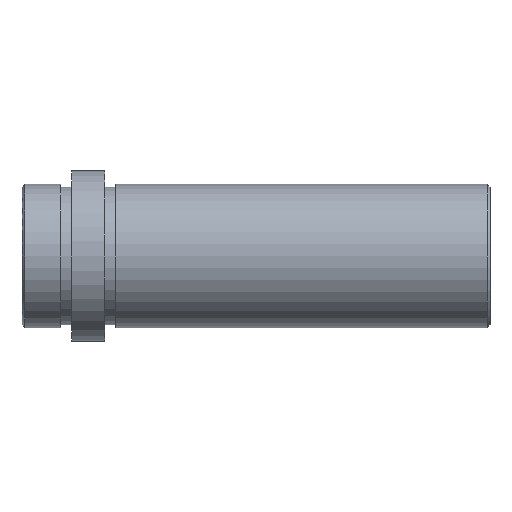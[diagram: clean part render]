
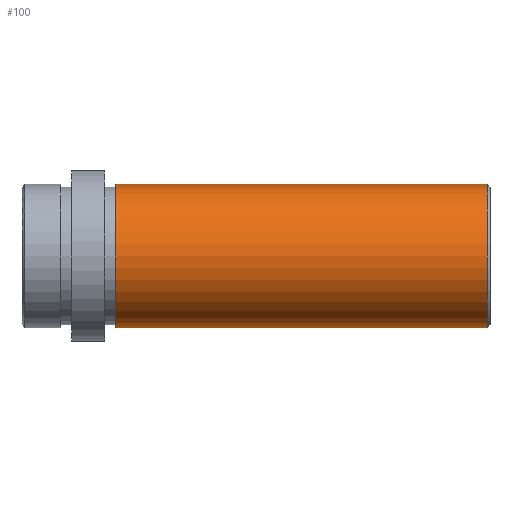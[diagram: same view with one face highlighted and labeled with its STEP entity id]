
A CAD part, front view. The second image highlights one B-rep face of the part: STEP entity #100.
In plain terms, the highlighted face is a revolution surface.
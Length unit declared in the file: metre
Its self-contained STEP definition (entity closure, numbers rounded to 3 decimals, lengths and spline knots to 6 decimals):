
#100 = ADVANCED_FACE( '', ( #157 ), #158, .F. );
#157 = FACE_OUTER_BOUND( '', #250, .T. );
#158 = SURFACE_OF_REVOLUTION( '', #251, #252 );
#250 = EDGE_LOOP( '', ( #419, #420, #421, #422 ) );
#251 = B_SPLINE_CURVE_WITH_KNOTS( '', 1, ( #423, #424 ), .UNSPECIFIED., .F., .F., ( 2, 2 ), ( -10000., 10000. ), .UNSPECIFIED. );
#252 = AXIS1_PLACEMENT( '', #425, #426 );
#419 = ORIENTED_EDGE( '', *, *, #492, .T. );
#420 = ORIENTED_EDGE( '', *, *, #490, .T. );
#421 = ORIENTED_EDGE( '', *, *, #445, .F. );
#422 = ORIENTED_EDGE( '', *, *, #489, .T. );
#423 = CARTESIAN_POINT( '', ( 10000.0845, 0., 0.013 ) );
#424 = CARTESIAN_POINT( '', ( -9999.9155, 0., 0.013 ) );
#425 = CARTESIAN_POINT( '', ( 0., 0., 0. ) );
#426 = DIRECTION( '', ( 1., 0., 0. ) );
#445 = EDGE_CURVE( '', #499, #500, #501, .T. );
#489 = EDGE_CURVE( '', #499, #571, #572, .F. );
#490 = EDGE_CURVE( '', #573, #500, #574, .T. );
#492 = EDGE_CURVE( '', #571, #573, #576, .T. );
#499 = VERTEX_POINT( '', #583 );
#500 = VERTEX_POINT( '', #584 );
#501 = CIRCLE( '', #585, 0.013 );
#571 = VERTEX_POINT( '', #671 );
#572 = LINE( '', #672, #673 );
#573 = VERTEX_POINT( '', #674 );
#574 = LINE( '', #675, #676 );
#576 = CIRCLE( '', #678, 0.013 );
#583 = CARTESIAN_POINT( '', ( 0.017, 0., -0.013 ) );
#584 = CARTESIAN_POINT( '', ( 0.017, 0., 0.013 ) );
#585 = AXIS2_PLACEMENT_3D( '', #689, #690, #691 );
#671 = CARTESIAN_POINT( '', ( 0.0845, 0., -0.013 ) );
#672 = CARTESIAN_POINT( '', ( 0.0845, 0., -0.013 ) );
#673 = VECTOR( '', #789, 1. );
#674 = CARTESIAN_POINT( '', ( 0.0845, 0., 0.013 ) );
#675 = CARTESIAN_POINT( '', ( 0.0845, 0., 0.013 ) );
#676 = VECTOR( '', #790, 1. );
#678 = AXIS2_PLACEMENT_3D( '', #794, #795, #796 );
#689 = CARTESIAN_POINT( '', ( 0.017, 0., 0. ) );
#690 = DIRECTION( '', ( -1., 0., 0. ) );
#691 = DIRECTION( '', ( 0., 0., 1. ) );
#789 = DIRECTION( '', ( -1., 0., 0. ) );
#790 = DIRECTION( '', ( -1., 0., 0. ) );
#794 = CARTESIAN_POINT( '', ( 0.0845, 0., 0. ) );
#795 = DIRECTION( '', ( -1., 0., 0. ) );
#796 = DIRECTION( '', ( 0., 0., 1. ) );
